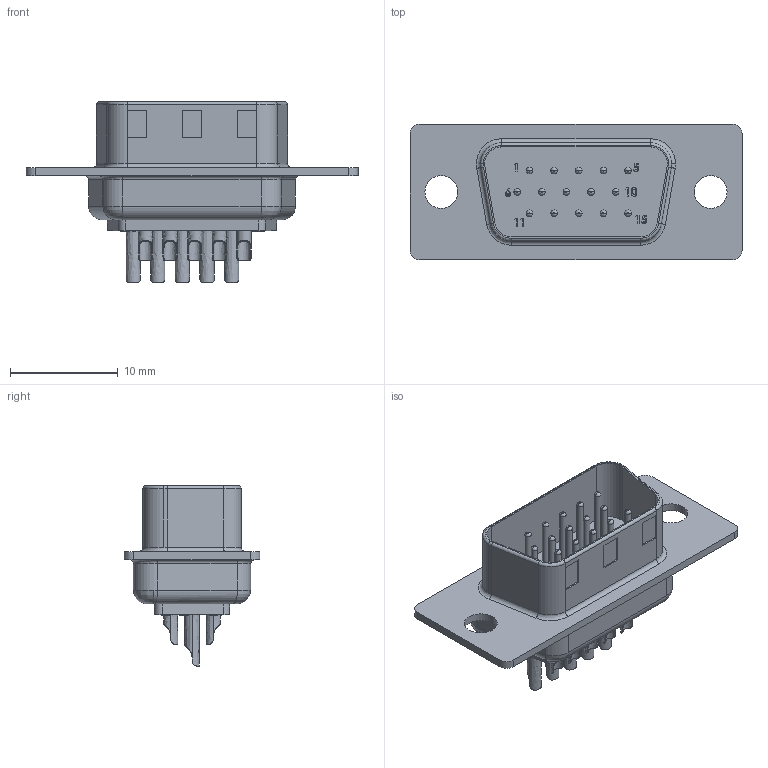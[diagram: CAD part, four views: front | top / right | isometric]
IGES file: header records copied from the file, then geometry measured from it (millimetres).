
Global section: file name: Filename.iges; native system: Open CASCADE 7.3; preprocessor: Open CASCADE IGES processor 7.3; date: 20201223.080450; units: millimetre
Bounding box: 30.81 x 12.6 x 16.74 mm (x, y, z)
Surface area: 2133 mm2 (no closed solid volume)
Topology: 0 solids, 0 shells, 567 faces, 2770 edges, 2770 vertices
Faces by surface type: plane 262, revolution 237, bspline 68
